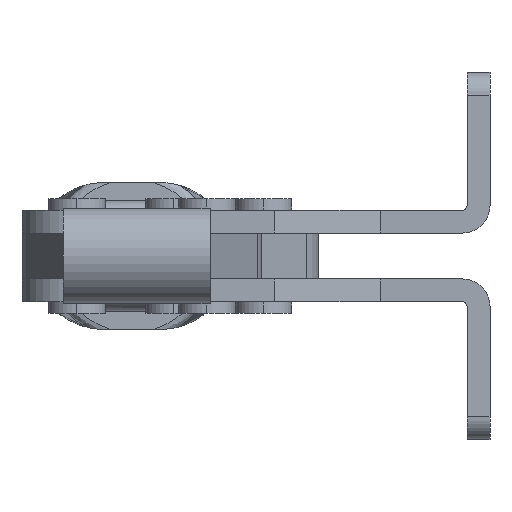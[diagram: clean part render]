
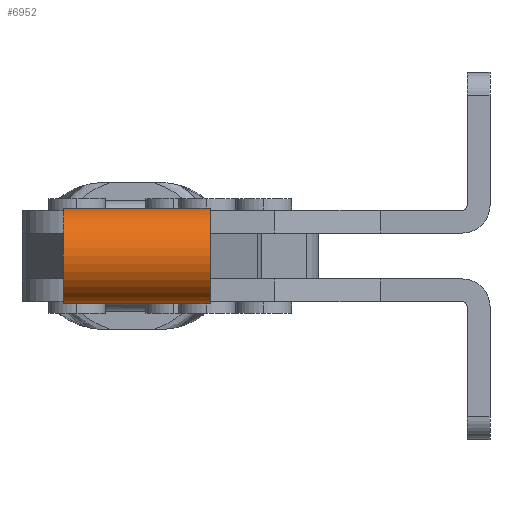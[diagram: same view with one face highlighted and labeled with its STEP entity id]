
A CAD part, left-side view. The second image highlights one B-rep face of the part: STEP entity #6952.
In plain terms, the highlighted cylindrical face has radius 5.2 mm (diameter 10.4 mm), a partial arc.
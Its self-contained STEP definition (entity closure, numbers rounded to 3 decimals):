
#35 = ORIENTED_EDGE ( 'NONE', *, *, #2621, .F. ) ;
#51 = CARTESIAN_POINT ( 'NONE',  ( -66., 15.624, 5.2 ) ) ;
#439 = CARTESIAN_POINT ( 'NONE',  ( -66., 15.624, 0. ) ) ;
#756 = ORIENTED_EDGE ( 'NONE', *, *, #7100, .T. ) ;
#1082 = VECTOR ( 'NONE', #5897, 1000. ) ;
#1158 = DIRECTION ( 'NONE',  ( 0., 1., 0. ) ) ;
#1334 = FACE_OUTER_BOUND ( 'NONE', #8704, .T. ) ;
#1460 = CYLINDRICAL_SURFACE ( 'NONE', #6877, 5.2 ) ;
#2070 = VERTEX_POINT ( 'NONE', #51 ) ;
#2437 = CARTESIAN_POINT ( 'NONE',  ( -66., -0.376, 0. ) ) ;
#2456 = CARTESIAN_POINT ( 'NONE',  ( -66., 15.624, -5.2 ) ) ;
#2482 = VERTEX_POINT ( 'NONE', #2456 ) ;
#2621 = EDGE_CURVE ( 'NONE', #3192, #2482, #4573, .T. ) ;
#2778 = CARTESIAN_POINT ( 'NONE',  ( -66., -0.376, 5.2 ) ) ;
#2920 = CIRCLE ( 'NONE', #7077, 5.2 ) ;
#3192 = VERTEX_POINT ( 'NONE', #4664 ) ;
#3429 = ORIENTED_EDGE ( 'NONE', *, *, #8466, .T. ) ;
#3899 = AXIS2_PLACEMENT_3D ( 'NONE', #439, #5204, #7865 ) ;
#4053 = VERTEX_POINT ( 'NONE', #2778 ) ;
#4165 = VECTOR ( 'NONE', #8620, 1000. ) ;
#4573 = LINE ( 'NONE', #8039, #1082 ) ;
#4664 = CARTESIAN_POINT ( 'NONE',  ( -66., -0.376, -5.2 ) ) ;
#4770 = CARTESIAN_POINT ( 'NONE',  ( -66., -0.376, 0. ) ) ;
#4812 = DIRECTION ( 'NONE',  ( 0., 0., 1. ) ) ;
#4834 = ORIENTED_EDGE ( 'NONE', *, *, #5040, .F. ) ;
#5034 = DIRECTION ( 'NONE',  ( 0., 0., 1. ) ) ;
#5040 = EDGE_CURVE ( 'NONE', #2482, #2070, #6601, .T. ) ;
#5204 = DIRECTION ( 'NONE',  ( 0., 1., 0. ) ) ;
#5897 = DIRECTION ( 'NONE',  ( 0., 1., 0. ) ) ;
#6162 = DIRECTION ( 'NONE',  ( 0., 1., 0. ) ) ;
#6601 = CIRCLE ( 'NONE', #3899, 5.2 ) ;
#6877 = AXIS2_PLACEMENT_3D ( 'NONE', #4770, #6162, #4812 ) ;
#6952 = ADVANCED_FACE ( 'NONE', ( #1334 ), #1460, .T. ) ;
#7077 = AXIS2_PLACEMENT_3D ( 'NONE', #2437, #1158, #5034 ) ;
#7100 = EDGE_CURVE ( 'NONE', #4053, #2070, #8752, .T. ) ;
#7406 = CARTESIAN_POINT ( 'NONE',  ( -66., -0.376, 5.2 ) ) ;
#7865 = DIRECTION ( 'NONE',  ( 0., 0., 1. ) ) ;
#8039 = CARTESIAN_POINT ( 'NONE',  ( -66., -0.376, -5.2 ) ) ;
#8466 = EDGE_CURVE ( 'NONE', #3192, #4053, #2920, .T. ) ;
#8620 = DIRECTION ( 'NONE',  ( 0., 1., 0. ) ) ;
#8704 = EDGE_LOOP ( 'NONE', ( #35, #3429, #756, #4834 ) ) ;
#8752 = LINE ( 'NONE', #7406, #4165 ) ;
